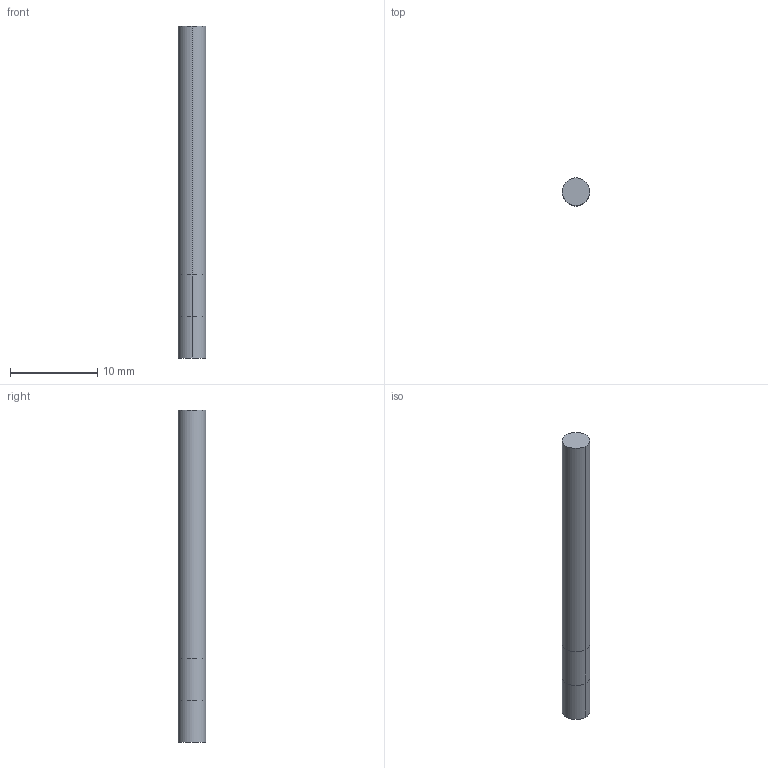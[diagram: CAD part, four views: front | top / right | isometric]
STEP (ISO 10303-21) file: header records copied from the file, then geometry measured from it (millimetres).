
FILE_DESCRIPTION((' '),'2;1');
FILE_NAME( '3MVS1250N3AH.stp', '2026-01-21T19:26:23', (' '), ('--- Datakit www.datakit.com---'), ' Datakit CrossCadWare V2025.4 Sep 19 2025', 'Mastercam 2027', ' ');
FILE_SCHEMA(('AUTOMOTIVE_DESIGN { 1 0 10303 214 1 1 1 1 }'));
Length unit declared in the file: inch
Products named in the file (1): 3MVS1250N3AH
Bounding box: 3.17 x 3.17 x 38.1 mm (x, y, z)
Volume: 301.6 mm3; surface area: 395.9 mm2
Topology: 1 solids, 1 shells, 8 faces, 14 edges, 8 vertices
Faces by surface type: cylinder 6, plane 2
Entity records: 271 total; most frequent: DIRECTION 48, CARTESIAN_POINT 35, ORIENTED_EDGE 28, AXIS2_PLACEMENT_3D 21, EDGE_CURVE 14, VERTEX_POINT 8, CIRCLE 8, EDGE_LOOP 8
